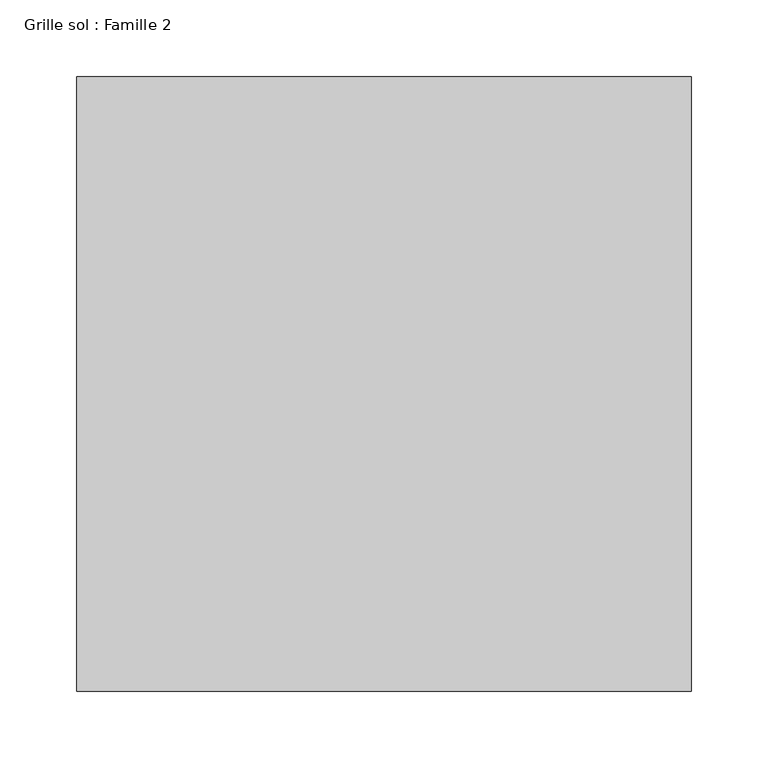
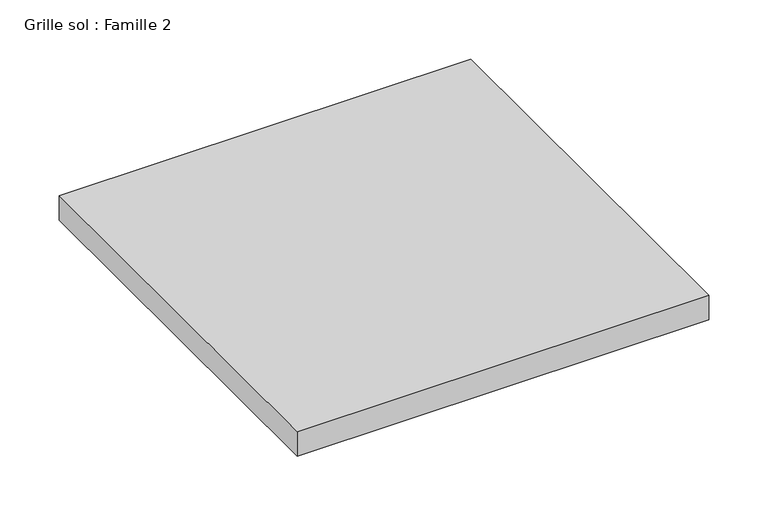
"""IFC4 building model written with IfcOpenShell, lengths in millimetres: proxy geometry, Grille sol : Famille 2."""

import ifcopenshell
import ifcopenshell.guid

model = None  # the IFC model being written
_history = None  # IfcOwnerHistory: only IFC2X3 demands one
_inside = {}  # id of a spatial element -> (the spatial element, [elements in it])
_under = {}  # id of a project, library or spatial element -> (it, [spatial elements below it])
_declared = {}  # id of a project -> (the project, [libraries it declares])
_typed = {}  # id of a type object -> (the type object, [elements of that type])
_made_of = {}  # id of a material, layer set ... -> (it, [elements and type objects made of it])


def new_model(schema):
    """Start an empty IFC model of exactly this schema.

    Asked for "IFC4X3", IfcOpenShell would pick the latest addendum, in which some entities
    have other attributes; the version numbers below select the first issue.
    IFC2X3 requires an IfcOwnerHistory on every rooted entity: one is made here for all.
    """
    global model, _history
    if schema == "IFC4X3":
        model = ifcopenshell.file(schema_version=(4, 3, 0, 0))
    else:
        model = ifcopenshell.file(schema=schema)
    _inside.clear()
    _under.clear()
    _declared.clear()
    _typed.clear()
    _made_of.clear()
    _history = None
    if model.schema == "IFC2X3":
        org = make("IfcOrganization", Name="unknown")
        user = make(
            "IfcPersonAndOrganization",
            ThePerson=make("IfcPerson", FamilyName="unknown"),
            TheOrganization=org,
        )
        app = make(
            "IfcApplication",
            ApplicationDeveloper=org,
            Version="unknown",
            ApplicationFullName="unknown",
            ApplicationIdentifier="unknown",
        )
        _history = make(
            "IfcOwnerHistory",
            OwningUser=user,
            OwningApplication=app,
            ChangeAction="ADDED",
            CreationDate=0,
        )
    return model


def make(cls, **values):
    """One entity of the class cls with the attributes given. An attribute that is None is left unset."""
    return model.create_entity(
        cls, **{name: value for name, value in values.items() if value is not None}
    )


def rooted(cls, **values):
    """An entity with a GlobalId (a new one), such as an element, a storey or a relation."""
    return make(cls, GlobalId=ifcopenshell.guid.new(), OwnerHistory=_history, **values)


def si_unit(unit_type, name, prefix=None):
    """IfcSIUnit, for example si_unit("LENGTHUNIT", "METRE", prefix="MILLI")."""
    return make("IfcSIUnit", UnitType=unit_type, Prefix=prefix, Name=name)


def assignment(units):
    """IfcUnitAssignment: the units of a project."""
    return None if units is None else make("IfcUnitAssignment", Units=units)


def point(xyz):
    """IfcCartesianPoint."""
    return None if xyz is None else make("IfcCartesianPoint", Coordinates=xyz)


def direction(xyz):
    """IfcDirection."""
    return None if xyz is None else make("IfcDirection", DirectionRatios=xyz)


def frame(location, z_axis=None, x_axis=None):
    """IfcAxis2Placement3D, a coordinate frame: its origin and axes. An axis left out is left unset."""
    return make(
        "IfcAxis2Placement3D",
        Location=point(location),
        Axis=direction(z_axis),
        RefDirection=direction(x_axis),
    )


def origin():
    """The frame at (0, 0, 0) with its axes left unset."""
    return frame((0.0, 0.0, 0.0))


def origin_with_axes():
    """The frame at (0, 0, 0) with the z axis (0, 0, 1) and the x axis (1, 0, 0) written out."""
    return frame((0.0, 0.0, 0.0), z_axis=(0.0, 0.0, 1.0), x_axis=(1.0, 0.0, 0.0))


def place(relative_to, where):
    """IfcLocalPlacement: puts the frame where relative to a parent placement (None: the world)."""
    return make(
        "IfcLocalPlacement", PlacementRelTo=relative_to, RelativePlacement=where
    )


def context(
    kind, dimensions, precision=None, world=None, true_north=None, identifier=None
):
    """IfcGeometricRepresentationContext, for example the 3D "Model" context."""
    return make(
        "IfcGeometricRepresentationContext",
        ContextIdentifier=identifier,
        ContextType=kind,
        CoordinateSpaceDimension=dimensions,
        Precision=precision,
        WorldCoordinateSystem=world,
        TrueNorth=true_north,
    )


def project(units=None, contexts=None):
    """IfcProject with its units and contexts."""
    return rooted(
        "IfcProject",
        Name="project",
        RepresentationContexts=contexts,
        UnitsInContext=assignment(units),
    )


def spatial(cls, under=None, at=None, **own):
    """A site, building, storey or space (cls), placed at a placement, below another one or the project."""
    s = rooted(cls, ObjectPlacement=at, **own)
    if under is not None:
        _under.setdefault(under.id(), (under, []))[1].append(s)
    return s


def polyline(points):
    """IfcPolyline through the points."""
    return make("IfcPolyline", Points=[point(p) for p in points])


def outline(outer, holes=None, kind="AREA"):
    """IfcArbitraryClosedProfileDef: a profile drawn as a closed curve; with holes, ...WithVoids."""
    if holes is None:
        return make("IfcArbitraryClosedProfileDef", ProfileType=kind, OuterCurve=outer)
    return make(
        "IfcArbitraryProfileDefWithVoids",
        ProfileType=kind,
        OuterCurve=outer,
        InnerCurves=holes,
    )


def extrude(swept, where, along, depth):
    """IfcExtrudedAreaSolid: the profile swept, set in the frame where, extruded along a direction by depth."""
    return make(
        "IfcExtrudedAreaSolid",
        SweptArea=swept,
        Position=where,
        ExtrudedDirection=direction(along),
        Depth=depth,
    )


def shape(context_of_items, identifier, shape_type, items):
    """IfcShapeRepresentation: the items that make up one representation, for example the "Body"."""
    return make(
        "IfcShapeRepresentation",
        ContextOfItems=context_of_items,
        RepresentationIdentifier=identifier,
        RepresentationType=shape_type,
        Items=items,
    )


def source(mapping_origin, context_of_items, identifier, shape_type, items):
    """IfcRepresentationMap: a shape defined once, which mapped items show again and again."""
    return make(
        "IfcRepresentationMap",
        MappingOrigin=mapping_origin,
        MappedRepresentation=shape(context_of_items, identifier, shape_type, items),
    )


def transform(
    local_origin,
    x_axis=None,
    y_axis=None,
    z_axis=None,
    scale=None,
    scale2=None,
    scale3=None,
    uniform=True,
):
    """IfcCartesianTransformationOperator3D, or its non-uniform kind. x_axis, y_axis, z_axis: its Axis1, 2, 3."""
    if uniform:
        return make(
            "IfcCartesianTransformationOperator3D",
            Axis1=direction(x_axis),
            Axis2=direction(y_axis),
            LocalOrigin=point(local_origin),
            Scale=scale,
            Axis3=direction(z_axis),
        )
    return make(
        "IfcCartesianTransformationOperator3DnonUniform",
        Axis1=direction(x_axis),
        Axis2=direction(y_axis),
        LocalOrigin=point(local_origin),
        Scale=scale,
        Axis3=direction(z_axis),
        Scale2=scale2,
        Scale3=scale3,
    )


def mapped(mapping_source, mapping_target):
    """IfcMappedItem: shows the shape of a source again, moved by a transform."""
    return make(
        "IfcMappedItem", MappingSource=mapping_source, MappingTarget=mapping_target
    )


def made_of(thing, what):
    """Note that an element or type object is made of a material, layer set ...; save() writes the relation."""
    if what is not None:
        _made_of.setdefault(what.id(), (what, []))[1].append(thing)
    return thing


def element(
    cls,
    number,
    at=None,
    inside=None,
    cuts=None,
    type_object=None,
    material=None,
    context=None,
    identifier="Body",
    shape_type=None,
    held_by="IfcProductDefinitionShape",
    body=None,
    shapes=None,
    **own,
):
    """One element of the class cls, such as IfcWall. Its Tag is "e" and its number.

    at: its placement. inside: the storey or other place that contains it. cuts: it is an
    opening in that element (IfcRelVoidsElement). A single representation is given by context,
    identifier, shape_type and body (its items); several are given by shapes. held_by: the class
    of the entity that holds the representations. save() writes the other relations.
    """
    e = rooted(cls, Tag="e%d" % number, ObjectPlacement=at, **own)
    if body is not None:
        shapes = [shape(context, identifier, shape_type, body)]
    if shapes is not None:
        e.Representation = make(held_by, Representations=shapes)
    if inside is not None:
        _inside.setdefault(inside.id(), (inside, []))[1].append(e)
    if cuts is not None:
        rooted(
            "IfcRelVoidsElement", RelatingBuildingElement=cuts, RelatedOpeningElement=e
        )
    if type_object is not None:
        _typed.setdefault(type_object.id(), (type_object, []))[1].append(e)
    return made_of(e, material)


def aggregate(whole, parts):
    """IfcRelAggregates: a whole, such as a stair, and the parts it consists of."""
    return rooted("IfcRelAggregates", RelatingObject=whole, RelatedObjects=parts)


def save(model, path):
    """Write the relations noted so far, then the file.

    IfcRelAggregates (storeys below a building ...), IfcRelContainedInSpatialStructure (elements
    in a storey), IfcRelDefinesByType, IfcRelAssociatesMaterial and IfcRelDeclares: one each for
    every whole, place, type object, material and project.
    """
    for whole, parts in _under.values():
        aggregate(whole, parts)
    for where, things in _inside.values():
        rooted(
            "IfcRelContainedInSpatialStructure",
            RelatedElements=things,
            RelatingStructure=where,
        )
    for kind, things in _typed.values():
        rooted("IfcRelDefinesByType", RelatedObjects=things, RelatingType=kind)
    for what, things in _made_of.values():
        rooted("IfcRelAssociatesMaterial", RelatedObjects=things, RelatingMaterial=what)
    for by, libraries in _declared.values():
        rooted("IfcRelDeclares", RelatingContext=by, RelatedDefinitions=libraries)
    model.write(path)


def grille_sol_famille_2_82d3b247(model_context):
    return source(origin(), model_context, "Body", "SweptSolid", [
        extrude(outline(polyline([(-200.0, 200.0), (200.0, 200.0), (200.0, -200.0), (-200.0, -200.0), (-200.0, 200.0)])), origin_with_axes(), (0.0, 0.0, 1.0), 25.0),
    ])


if __name__ == "__main__":
    model = new_model("IFC4")
    model_context = context("Model", 3, world=origin())
    ifc_project = project(units=[si_unit("LENGTHUNIT", "METRE", prefix="MILLI")], contexts=[model_context])
    site = spatial("IfcSite", under=ifc_project)
    building = spatial("IfcBuilding", under=site)
    placement = place(None, origin())
    grille_sol_famille_2_shape = grille_sol_famille_2_82d3b247(model_context)
    element("IfcBuildingElementProxy", 1, Name="Grille sol : Famille 2", ObjectType="Grille sol : Famille 2", at=placement, inside=building, context=model_context, shape_type="MappedRepresentation", body=[
        mapped(grille_sol_famille_2_shape, transform((0.0, 0.0, 0.0), x_axis=(1.0, 0.0, 0.0), y_axis=(0.0, 1.0, 0.0), z_axis=(0.0, 0.0, 1.0))),
    ])
    save(model, "model.ifc")
